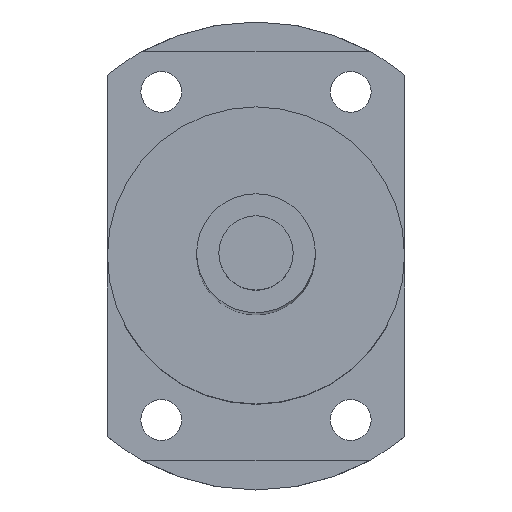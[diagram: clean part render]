
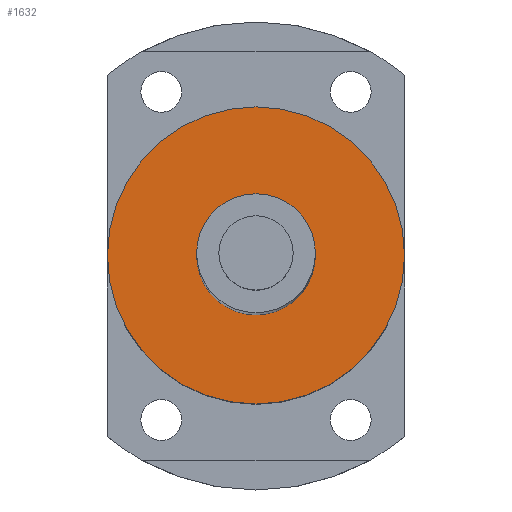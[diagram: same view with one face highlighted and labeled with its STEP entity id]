
A CAD part, top view. The second image highlights one B-rep face of the part: STEP entity #1632.
In plain terms, the highlighted planar face has unit normal (0, 0, 1).
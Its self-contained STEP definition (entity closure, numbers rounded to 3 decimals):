
#503=CARTESIAN_POINT('',(0.,0.,275.5));
#504=DIRECTION('',(0.,0.,1.));
#505=DIRECTION('',(1.,0.,0.));
#506=AXIS2_PLACEMENT_3D('',#503,#504,#505);
#508=CARTESIAN_POINT('',(0.,0.,275.5));
#509=DIRECTION('',(0.,0.,1.));
#510=DIRECTION('',(-1.,0.,0.));
#511=AXIS2_PLACEMENT_3D('',#508,#509,#510);
#513=CARTESIAN_POINT('',(0.,0.,275.5));
#514=DIRECTION('',(0.,0.,1.));
#515=DIRECTION('',(1.,0.,0.));
#516=AXIS2_PLACEMENT_3D('',#513,#514,#515);
#518=CARTESIAN_POINT('',(0.,0.,275.5));
#519=DIRECTION('',(0.,0.,1.));
#520=DIRECTION('',(-1.,0.,0.));
#521=AXIS2_PLACEMENT_3D('',#518,#519,#520);
#757=CARTESIAN_POINT('',(20.,0.,275.5));
#758=CARTESIAN_POINT('',(-20.,0.,275.5));
#759=VERTEX_POINT('',#757);
#760=VERTEX_POINT('',#758);
#769=CARTESIAN_POINT('',(8.,0.,275.5));
#770=CARTESIAN_POINT('',(-8.,0.,275.5));
#771=VERTEX_POINT('',#769);
#772=VERTEX_POINT('',#770);
#1617=CARTESIAN_POINT('',(0.,0.,275.5));
#1618=DIRECTION('',(0.,0.,1.));
#1619=DIRECTION('',(1.,0.,0.));
#1620=AXIS2_PLACEMENT_3D('',#1617,#1618,#1619);
#1621=PLANE('',#1620);
#1622=ORIENTED_EDGE('',*,*,#1597,.F.);
#1623=ORIENTED_EDGE('',*,*,#1611,.F.);
#1624=EDGE_LOOP('',(#1622,#1623));
#1625=FACE_OUTER_BOUND('',#1624,.F.);
#1627=ORIENTED_EDGE('',*,*,#1626,.T.);
#1629=ORIENTED_EDGE('',*,*,#1628,.T.);
#1630=EDGE_LOOP('',(#1627,#1629));
#1631=FACE_BOUND('',#1630,.F.);
#1632=ADVANCED_FACE('',(#1625,#1631),#1621,.T.);
#507=CIRCLE('',#506,20.);
#512=CIRCLE('',#511,20.);
#517=CIRCLE('',#516,8.);
#522=CIRCLE('',#521,8.);
#1597=EDGE_CURVE('',#759,#760,#507,.T.);
#1611=EDGE_CURVE('',#760,#759,#512,.T.);
#1626=EDGE_CURVE('',#771,#772,#517,.T.);
#1628=EDGE_CURVE('',#772,#771,#522,.T.);
